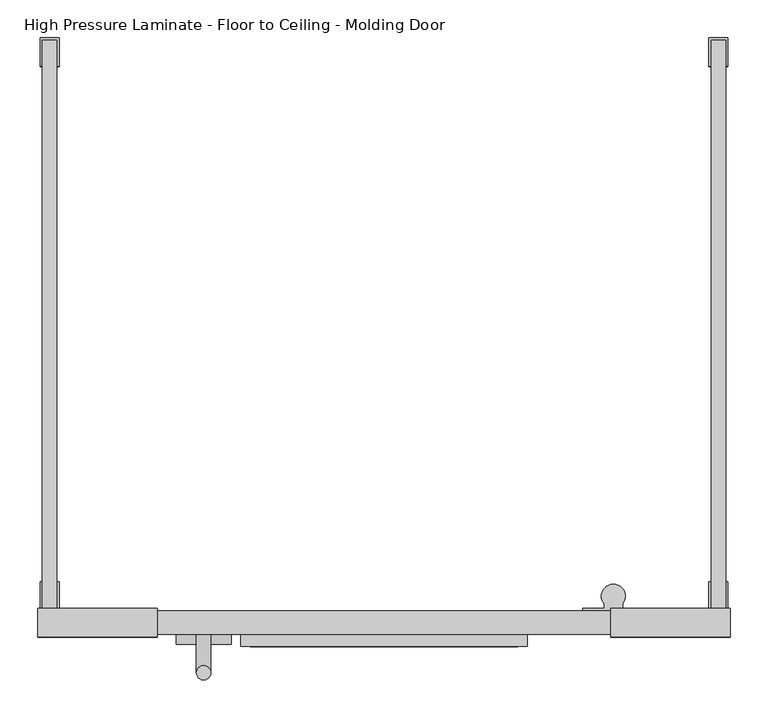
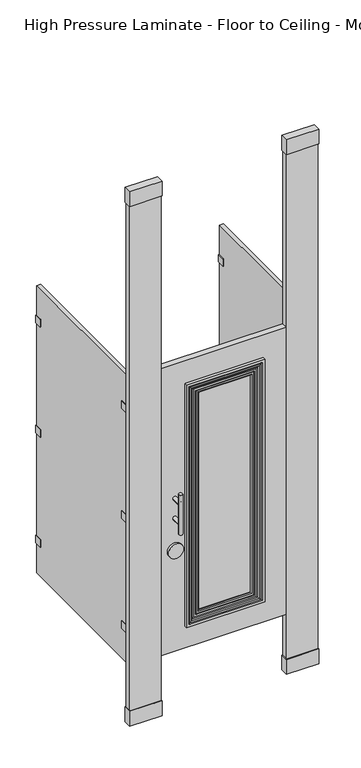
"""IFC4 building model written with IfcOpenShell, lengths in millimetres: proxy geometry, Toilet-Partition_Ironwood-Mfg_High-Pressure-Laminate : High Pressure Laminate - Floor to Ceiling - Molding Door."""

from ifc_helpers import new_model, si_unit, point, frame, frame_2d, origin, origin_with_axes, place, context, project, spatial, polyline, circle_curve, ellipse_curve, trimmed, segment, composite_curve, outline, extrude, source, transform, mapped, element, save
from ifc_brep_helpers import plane_surface, cylinder_surface, revolved_surface, advanced_brep


def high_pressure_laminate_floor_to_ceiling_molding_door_967f00b9(model_context):
    return source(origin(), model_context, "Body", "SolidModel", [
        extrude(outline(polyline([(542.925, -796.925), (542.925, -758.825), (701.675, -758.825), (701.675, -796.925), (542.925, -796.925)])), frame((0.0, 0.0, 2667.0), z_axis=(0.0, 0.0, 1.0), x_axis=(1.0, 0.0, 0.0)), (0.0, 0.0, 1.0), 76.1999999),
        extrude(outline(polyline([(701.675, -758.825), (701.675, -796.925), (542.925, -796.925), (542.925, -758.825), (701.675, -758.825)])), origin_with_axes(), (0.0, 0.0, 1.0), 76.2),
        extrude(outline(polyline([(698.5, -762.0), (698.5, -793.75), (546.1, -793.75), (546.1, -762.0), (698.5, -762.0)])), origin_with_axes(), (0.0, 0.0, 1.0), 2667.0),
        extrude(outline(polyline([(-60.325, -796.925), (-219.075, -796.925), (-219.075, -758.825), (-60.325, -758.825), (-60.325, -796.925)])), frame((0.0, 0.0, 2667.0), z_axis=(0.0, 0.0, 1.0), x_axis=(1.0, 0.0, 0.0)), (0.0, 0.0, 1.0), 76.1999999),
        extrude(outline(polyline([(-219.075, -758.825), (-60.325, -758.825), (-60.325, -796.925), (-219.075, -796.925), (-219.075, -758.825)])), origin_with_axes(), (0.0, 0.0, 1.0), 76.2),
        extrude(outline(polyline([(-215.9, -762.0), (-63.5, -762.0), (-63.5, -793.75), (-215.9, -793.75), (-215.9, -762.0)])), origin_with_axes(), (0.0, 0.0, 1.0), 2667.0),
        extrude(outline(polyline([(546.1, -793.75), (-63.5, -793.75), (-63.5, -762.0), (546.1, -762.0), (546.1, -793.75)])), frame((0.0, 0.0, 304.8), z_axis=(0.0, 0.0, 1.0), x_axis=(1.0, 0.0, 0.0)), (0.0, 0.0, 1.0), 1473.2),
        extrude(outline(composite_curve([segment(trimmed(circle_curve(frame_2d((827.0875, 1.5875)), 36.5125), [point((827.0875, -34.925))], [point((827.0875, 38.1))], False, "CARTESIAN"), True, "CONTINUOUS"), segment(trimmed(circle_curve(frame_2d((827.0875, 1.5875)), 36.5125), [point((827.0875, 38.1))], [point((827.0875, -34.925))], False, "CARTESIAN"), True, "CONTINUOUS")], self_intersect=False)), frame((0.0, -806.45, 0.0), z_axis=(0.0, 1.0, 0.0), x_axis=(0.0, 0.0, 1.0)), (0.0, 0.0, 1.0), 12.7),
        advanced_brep(
        [(-7.9375, -793.75, 1092.2), (11.1125, -793.75, 1092.2), (-7.9375, -793.75, 990.6), (11.1125, -793.75, 990.6), (11.1125, -844.55, 1092.2), (-7.9375, -844.55, 1092.2), (11.1125, -844.55, 990.6), (-7.9375, -844.55, 990.6), (-7.9375, -844.55, 1143.0), (11.1125, -844.55, 1143.0), (-7.9375, -844.55, 939.8), (11.1125, -844.55, 939.8)],
        [
            (0, 1, circle_curve(frame((1.5875, -793.75, 1092.2), z_axis=(0.0, 1.0, 0.0), x_axis=(1.0, 0.0, 0.0)), 9.525)),
            (1, 0, circle_curve(frame((1.5875, -793.75, 1092.2), z_axis=(0.0, 1.0, 0.0), x_axis=(1.0, 0.0, 0.0)), 9.525)),
            (2, 3, circle_curve(frame((1.5875, -793.75, 990.6), z_axis=(0.0, 1.0, 0.0), x_axis=(1.0, 0.0, 0.0)), 9.525)),
            (3, 2, circle_curve(frame((1.5875, -793.75, 990.6), z_axis=(0.0, 1.0, 0.0), x_axis=(1.0, 0.0, 0.0)), 9.525)),
            (1, 4),
            (4, 5, ellipse_curve(frame((1.5875, -844.55, 1092.2), z_axis=(0.0, 0.7071067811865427, 0.7071067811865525), x_axis=(0.0, -0.7071067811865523, 0.7071067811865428)), 13.4703842, 9.525)),
            (5, 0),
            (5, 4, ellipse_curve(frame((1.5875, -844.55, 1092.2), z_axis=(0.0, 0.7071067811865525, -0.7071067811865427), x_axis=(0.0, -0.7071067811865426, -0.7071067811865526)), 13.4703842, 9.525)),
            (3, 6),
            (6, 7, ellipse_curve(frame((1.5875, -844.55, 990.6), z_axis=(0.0, 0.7071067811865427, 0.7071067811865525), x_axis=(0.0, -0.7071067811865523, 0.7071067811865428)), 13.4703842, 9.525)),
            (7, 2),
            (7, 6, ellipse_curve(frame((1.5875, -844.55, 990.6), z_axis=(0.0, 0.7071067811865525, -0.7071067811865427), x_axis=(0.0, -0.7071067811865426, -0.7071067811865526)), 13.4703842, 9.525)),
            (8, 9, circle_curve(frame((1.5875, -844.55, 1143.0), z_axis=(0.0, 0.0, 1.0), x_axis=(1.0, 0.0, 0.0)), 9.525)),
            (9, 8, circle_curve(frame((1.5875, -844.55, 1143.0), z_axis=(0.0, 0.0, 1.0), x_axis=(1.0, 0.0, 0.0)), 9.525)),
            (10, 11, circle_curve(frame((1.5875, -844.55, 939.8), z_axis=(0.0, 0.0, -1.0), x_axis=(1.0, 0.0, 0.0)), 9.525)),
            (11, 10, circle_curve(frame((1.5875, -844.55, 939.8), z_axis=(0.0, 0.0, -1.0), x_axis=(1.0, 0.0, 0.0)), 9.525)),
            (8, 5),
            (5, 7),
            (7, 10),
            (11, 6),
            (6, 4),
            (4, 9),
        ],
        [
            plane_surface(frame((11.1125, -793.75, 1092.2), z_axis=(0.0, 1.0, 0.0), x_axis=(0.0, 0.0, -1.0))),
            cylinder_surface(frame((1.5875, -793.75, 1092.2), z_axis=(0.0, -1.0, 0.0), x_axis=(1.0, 0.0, 0.0)), 9.525),
            cylinder_surface(frame((1.5875, -793.75, 990.6), z_axis=(0.0, -1.0, 0.0), x_axis=(1.0, 0.0, 0.0)), 9.525),
            plane_surface(frame((11.1125, -844.55, 1143.0), z_axis=(0.0, 0.0, 1.0), x_axis=(0.0, 1.0, 0.0))),
            plane_surface(frame((11.1125, -844.55, 939.8), z_axis=(0.0, 0.0, -1.0), x_axis=(0.0, -1.0, 0.0))),
            cylinder_surface(frame((1.5875, -844.55, 939.8), z_axis=(0.0, 0.0, 1.0), x_axis=(1.0, 0.0, 0.0)), 9.525),
        ],
        [
            (0, [[1, 2]]),
            (0, [[3, 4]]),
            (1, [[-2, 5, 6, 7]]),
            (1, [[-1, -7, 8, -5]]),
            (2, [[-4, 9, 10, 11]]),
            (2, [[-3, -11, 12, -9]]),
            (3, [[13, 14]]),
            (4, [[15, 16]]),
            (5, [[-13, 17, 18, 19, -16, 20, 21, 22]]),
            (5, [[-14, -22, -8, -17]]),
            (5, [[-15, -19, -10, -20]]),
            (5, [[-18, -6, -21, -12]]),
        ],
    ),
        advanced_brep(
        [(414.5195881, -795.0073117, 1646.4195881), (415.7768998, -793.75, 1647.6768998), (415.7768998, -793.75, 435.1231002), (414.5195881, -795.0073117, 436.3804119), (382.8493103, -793.6667663, 1614.7493103), (384.1898558, -795.0073117, 1616.0898558), (384.1898558, -795.0073117, 466.7101442), (382.8493103, -793.6667663, 468.0506897), (368.3, -798.7403203, 1600.2), (368.3, -793.6667663, 1600.2), (368.3, -793.6667663, 482.6), (368.3, -798.7403203, 482.6), (371.8761431, -802.1839988, 1603.7761431), (371.8761431, -802.1839988, 479.0238569), (383.7857899, -803.6776278, 1615.6857899), (381.5195942, -802.1839988, 1613.4195942), (381.5195942, -802.1839988, 469.3804058), (383.7857899, -803.6776278, 467.1142101), (399.1420677, -804.5443603, 1631.0420677), (393.8806616, -803.6776278, 1625.7806616), (393.8806616, -803.6776278, 457.0193384), (399.1420677, -804.5443603, 451.7579323), (406.241729, -807.1284257, 1638.141729), (406.241729, -807.1284257, 444.658271), (415.3065117, -806.819399, 1647.2065117), (415.3065117, -806.819399, 435.5934883), (419.1, -809.625, 1651.0), (419.1, -809.625, 431.8), (431.8, -793.75, 1663.7), (431.8, -809.625, 1663.7), (431.8, -809.625, 419.1), (431.8, -793.75, 419.1), (66.8231002, -793.75, 435.1231002), (68.0804119, -795.0073117, 436.3804119), (98.4101442, -795.0073117, 466.7101442), (99.7506897, -793.6667663, 468.0506897), (114.3, -793.6667663, 482.6), (114.3, -798.7403203, 482.6), (110.7238569, -802.1839988, 479.0238569), (101.0804058, -802.1839988, 469.3804058), (98.8142101, -803.6776278, 467.1142101), (88.7193384, -803.6776278, 457.0193384), (83.4579323, -804.5443603, 451.7579323), (76.358271, -807.1284257, 444.658271), (67.2934883, -806.819399, 435.5934883), (63.5, -809.625, 431.8), (50.8, -809.625, 419.1), (50.8, -793.75, 419.1), (66.8231002, -793.75, 1647.6768998), (68.0804119, -795.0073117, 1646.4195881), (98.4101442, -795.0073117, 1616.0898558), (99.7506897, -793.6667663, 1614.7493103), (114.3, -793.6667663, 1600.2), (114.3, -798.7403203, 1600.2), (110.7238569, -802.1839988, 1603.7761431), (101.0804058, -802.1839988, 1613.4195942), (98.8142101, -803.6776278, 1615.6857899), (88.7193384, -803.6776278, 1625.7806616), (83.4579323, -804.5443603, 1631.0420677), (76.358271, -807.1284257, 1638.141729), (67.2934883, -806.819399, 1647.2065117), (63.5, -809.625, 1651.0), (50.8, -809.625, 1663.7), (50.8, -793.75, 1663.7)],
        [
            (0, 1),
            (1, 2),
            (2, 3),
            (3, 0),
            (4, 5),
            (5, 6),
            (6, 7),
            (7, 4),
            (8, 9),
            (9, 10),
            (10, 11),
            (11, 8),
            (12, 8, ellipse_curve(frame((371.8761431, -798.6053079, 1603.7761431), z_axis=(0.7071067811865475, 0.0, -0.7071067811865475), x_axis=(0.7071067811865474, 0.0, 0.7071067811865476)), 5.0610331, 3.5786908)),
            (11, 13, ellipse_curve(frame((371.8761431, -798.6053079, 479.0238569), z_axis=(0.7071067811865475, 0.0, 0.7071067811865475), x_axis=(-0.7071067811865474, 0.0, 0.7071067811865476)), 5.0610331, 3.5786908)),
            (13, 12),
            (14, 15, ellipse_curve(frame((383.7857899, -801.2116303, 1615.6857899), z_axis=(0.7071067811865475, 0.0, -0.7071067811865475), x_axis=(0.7071067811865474, 0.0, 0.7071067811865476)), 3.487447, 2.4659974)),
            (15, 16),
            (16, 17, ellipse_curve(frame((383.7857899, -801.2116303, 467.1142101), z_axis=(0.7071067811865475, 0.0, 0.7071067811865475), x_axis=(-0.7071067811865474, 0.0, 0.7071067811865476)), 3.487447, 2.4659974)),
            (17, 14),
            (18, 19, ellipse_curve(frame((394.2058089, -818.1066197, 1626.1058089), z_axis=(-0.7071067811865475, 0.0, 0.7071067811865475), x_axis=(-0.7071067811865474, 0.0, -0.7071067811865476)), 20.4108564, 14.432655)),
            (19, 20),
            (20, 21, ellipse_curve(frame((394.2058089, -818.1066197, 456.6941911), z_axis=(-0.7071067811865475, 0.0, -0.7071067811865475), x_axis=(0.7071067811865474, 0.0, -0.7071067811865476)), 20.4108564, 14.432655)),
            (21, 18),
            (22, 18),
            (21, 23),
            (23, 22),
            (24, 22, ellipse_curve(frame((410.3907719, -795.729024, 1642.2907719), z_axis=(0.7071067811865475, 0.0, -0.7071067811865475), x_axis=(0.7071067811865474, 0.0, 0.7071067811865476)), 17.1558104, 12.1309899)),
            (23, 25, ellipse_curve(frame((410.3907719, -795.729024, 440.5092281), z_axis=(0.7071067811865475, 0.0, 0.7071067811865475), x_axis=(-0.7071067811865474, 0.0, 0.7071067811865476)), 17.1558104, 12.1309899)),
            (25, 24),
            (26, 24, ellipse_curve(frame((419.1, -805.657588, 1651.0), z_axis=(0.7071067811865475, 0.0, -0.7071067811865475), x_axis=(0.7071067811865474, 0.0, 0.7071067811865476)), 5.6107679, 3.967412)),
            (25, 27, ellipse_curve(frame((419.1, -805.657588, 431.8), z_axis=(0.7071067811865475, 0.0, 0.7071067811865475), x_axis=(-0.7071067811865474, 0.0, 0.7071067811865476)), 5.6107679, 3.967412)),
            (27, 26),
            (28, 29),
            (29, 30),
            (30, 31),
            (31, 28),
            (2, 32),
            (32, 33),
            (33, 3),
            (6, 34),
            (34, 35),
            (35, 7),
            (10, 36),
            (36, 37),
            (37, 11),
            (37, 38, ellipse_curve(frame((110.7238569, -798.6053079, 479.0238569), z_axis=(0.7071067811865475, 0.0, -0.7071067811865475), x_axis=(0.7071067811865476, 0.0, 0.7071067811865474)), 5.0610331, 3.5786908)),
            (38, 13),
            (16, 39),
            (39, 40, ellipse_curve(frame((98.8142101, -801.2116303, 467.1142101), z_axis=(0.7071067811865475, 0.0, -0.7071067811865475), x_axis=(0.7071067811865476, 0.0, 0.7071067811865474)), 3.487447, 2.4659974)),
            (40, 17),
            (20, 41),
            (41, 42, ellipse_curve(frame((88.3941911, -818.1066197, 456.6941911), z_axis=(-0.7071067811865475, 0.0, 0.7071067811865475), x_axis=(-0.7071067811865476, 0.0, -0.7071067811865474)), 20.4108564, 14.432655)),
            (42, 21),
            (42, 43),
            (43, 23),
            (43, 44, ellipse_curve(frame((72.2092281, -795.729024, 440.5092281), z_axis=(0.7071067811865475, 0.0, -0.7071067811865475), x_axis=(0.7071067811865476, 0.0, 0.7071067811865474)), 17.1558104, 12.1309899)),
            (44, 25),
            (44, 45, ellipse_curve(frame((63.5, -805.657588, 431.8), z_axis=(0.7071067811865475, 0.0, -0.7071067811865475), x_axis=(0.7071067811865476, 0.0, 0.7071067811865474)), 5.6107679, 3.967412)),
            (45, 27),
            (30, 46),
            (46, 47),
            (47, 31),
            (32, 48),
            (48, 49),
            (49, 33),
            (34, 50),
            (50, 51),
            (51, 35),
            (36, 52),
            (52, 53),
            (53, 37),
            (53, 54, ellipse_curve(frame((110.7238569, -798.6053079, 1603.7761431), z_axis=(-0.7071067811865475, 0.0, -0.7071067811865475), x_axis=(0.7071067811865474, 0.0, -0.7071067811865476)), 5.0610331, 3.5786908)),
            (54, 38),
            (39, 55),
            (55, 56, ellipse_curve(frame((98.8142101, -801.2116303, 1615.6857899), z_axis=(-0.7071067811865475, 0.0, -0.7071067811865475), x_axis=(0.7071067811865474, 0.0, -0.7071067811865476)), 3.487447, 2.4659974)),
            (56, 40),
            (41, 57),
            (57, 58, ellipse_curve(frame((88.3941911, -818.1066197, 1626.1058089), z_axis=(0.7071067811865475, 0.0, 0.7071067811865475), x_axis=(-0.7071067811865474, 0.0, 0.7071067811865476)), 20.4108564, 14.432655)),
            (58, 42),
            (58, 59),
            (59, 43),
            (59, 60, ellipse_curve(frame((72.2092281, -795.729024, 1642.2907719), z_axis=(-0.7071067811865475, 0.0, -0.7071067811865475), x_axis=(0.7071067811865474, 0.0, -0.7071067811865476)), 17.1558104, 12.1309899)),
            (60, 44),
            (60, 61, ellipse_curve(frame((63.5, -805.657588, 1651.0), z_axis=(-0.7071067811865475, 0.0, -0.7071067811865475), x_axis=(0.7071067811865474, 0.0, -0.7071067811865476)), 5.6107679, 3.967412)),
            (61, 45),
            (46, 62),
            (62, 63),
            (63, 47),
            (63, 28),
            (1, 48),
            (0, 49),
            (5, 50),
            (4, 51),
            (9, 52),
            (8, 53),
            (12, 54),
            (15, 55),
            (14, 56),
            (19, 57),
            (18, 58),
            (22, 59),
            (24, 60),
            (26, 61),
            (29, 62),
        ],
        [
            plane_surface(frame((415.7768998, -793.75, 1647.6768998), z_axis=(-0.7071067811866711, 0.7071067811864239, 0.0), x_axis=(0.0, 0.0, -1.0))),
            plane_surface(frame((384.1898558, -795.0073117, 1616.0898558), z_axis=(0.7071067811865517, 0.7071067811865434, 0.0), x_axis=(0.0, 0.0, -1.0))),
            plane_surface(frame((368.3, -793.6667663, 1600.2), z_axis=(-1.0, 0.0, 0.0), x_axis=(0.0, 0.0, -1.0))),
            cylinder_surface(frame((371.8761431, -798.6053079, 1663.7), z_axis=(0.0, 0.0, 1.0), x_axis=(1.0, 0.0, 0.0)), 3.5786908),
            cylinder_surface(frame((383.7857899, -801.2116303, 1663.7), z_axis=(0.0, 0.0, 1.0), x_axis=(1.0, 0.0, 0.0)), 2.4659974),
            revolved_surface(polyline([(408.63846390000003, -818.1066197, 442.2615361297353), (408.63846390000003, -818.1066197, 1640.5384638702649)]), (394.2058089, -818.1066197, 1663.7), (0.0, 0.0, -1.0)),
            plane_surface(frame((399.1420677, -804.5443603, 1631.0420677), z_axis=(-0.34202014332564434, -0.9396926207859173, 0.0), x_axis=(0.0, 0.0, -1.0))),
            cylinder_surface(frame((410.3907719, -795.729024, 1663.7), z_axis=(0.0, 0.0, 1.0), x_axis=(1.0, 0.0, 0.0)), 12.1309899),
            cylinder_surface(frame((419.1, -805.657588, 1663.7), z_axis=(0.0, 0.0, 1.0), x_axis=(1.0, 0.0, 0.0)), 3.967412),
            plane_surface(frame((431.8, -809.625, 1663.7), z_axis=(1.0, 0.0, 0.0), x_axis=(0.0, 0.0, -1.0))),
            plane_surface(frame((415.7768998, -793.75, 435.1231002), z_axis=(0.0, 0.7071067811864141, 0.7071067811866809), x_axis=(-1.0, 0.0, 0.0))),
            plane_surface(frame((384.1898558, -795.0073117, 466.7101442), z_axis=(0.0, 0.7071067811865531, -0.7071067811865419), x_axis=(-1.0, 0.0, 0.0))),
            plane_surface(frame((368.3, -793.6667663, 482.6), z_axis=(0.0, 0.0, 1.0), x_axis=(-1.0, 0.0, 0.0))),
            cylinder_surface(frame((431.8, -798.6053079, 479.0238569), z_axis=(1.0, 0.0, 0.0), x_axis=(0.0, 0.0, -1.0)), 3.5786908),
            cylinder_surface(frame((431.8, -801.2116303, 467.1142101), z_axis=(1.0, 0.0, 0.0), x_axis=(0.0, 0.0, -1.0)), 2.4659974),
            revolved_surface(polyline([(73.96153612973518, -818.1066197, 442.2615361), (408.63846387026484, -818.1066197, 442.2615361)]), (431.8, -818.1066197, 456.6941911), (-1.0, 0.0, 0.0)),
            plane_surface(frame((399.1420677, -804.5443603, 451.7579323), z_axis=(0.0, -0.9396926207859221, 0.34202014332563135), x_axis=(-1.0, 0.0, 0.0))),
            cylinder_surface(frame((431.8, -795.729024, 440.5092281), z_axis=(1.0, 0.0, 0.0), x_axis=(0.0, 0.0, -1.0)), 12.1309899),
            cylinder_surface(frame((431.8, -805.657588, 431.8), z_axis=(1.0, 0.0, 0.0), x_axis=(0.0, 0.0, -1.0)), 3.967412),
            plane_surface(frame((431.8, -809.625, 419.1), z_axis=(0.0, 0.0, -1.0), x_axis=(-1.0, 0.0, 0.0))),
            plane_surface(frame((66.8231002, -793.75, 435.1231002), z_axis=(0.7071067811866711, 0.7071067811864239, 0.0), x_axis=(0.0, 0.0, 1.0))),
            plane_surface(frame((98.4101442, -795.0073117, 466.7101442), z_axis=(-0.7071067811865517, 0.7071067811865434, 0.0), x_axis=(0.0, 0.0, 1.0))),
            plane_surface(frame((114.3, -793.6667663, 482.6), z_axis=(1.0, 0.0, 0.0), x_axis=(0.0, 0.0, 1.0))),
            cylinder_surface(frame((110.7238569, -798.6053079, 419.1), z_axis=(0.0, 0.0, -1.0), x_axis=(-1.0, 0.0, 0.0)), 3.5786908),
            cylinder_surface(frame((98.8142101, -801.2116303, 419.1), z_axis=(0.0, 0.0, -1.0), x_axis=(-1.0, 0.0, 0.0)), 2.4659974),
            revolved_surface(polyline([(73.9615361, -818.1066197, 1640.5384638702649), (73.9615361, -818.1066197, 442.2615361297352)]), (88.3941911, -818.1066197, 419.1), (0.0, 0.0, 1.0)),
            plane_surface(frame((83.4579323, -804.5443603, 451.7579323), z_axis=(0.34202014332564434, -0.9396926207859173, 0.0), x_axis=(0.0, 0.0, 1.0))),
            cylinder_surface(frame((72.2092281, -795.729024, 419.1), z_axis=(0.0, 0.0, -1.0), x_axis=(-1.0, 0.0, 0.0)), 12.1309899),
            cylinder_surface(frame((63.5, -805.657588, 419.1), z_axis=(0.0, 0.0, -1.0), x_axis=(-1.0, 0.0, 0.0)), 3.967412),
            plane_surface(frame((50.8, -809.625, 419.1), z_axis=(-1.0, 0.0, 0.0), x_axis=(0.0, 0.0, 1.0))),
            plane_surface(frame((50.8, -793.75, 1663.7), z_axis=(0.0, 1.0, 0.0), x_axis=(1.0, 0.0, 0.0))),
            plane_surface(frame((66.8231002, -793.75, 1647.6768998), z_axis=(0.0, 0.7071067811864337, -0.7071067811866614), x_axis=(1.0, 0.0, 0.0))),
            plane_surface(frame((68.0804119, -795.0073117, 1646.4195881), z_axis=(0.0, 1.0, 0.0), x_axis=(1.0, 0.0, 0.0))),
            plane_surface(frame((98.4101442, -795.0073117, 1616.0898558), z_axis=(0.0, 0.7071067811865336, 0.7071067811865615), x_axis=(1.0, 0.0, 0.0))),
            plane_surface(frame((99.7506897, -793.6667663, 1614.7493103), z_axis=(0.0, 1.0, 0.0), x_axis=(1.0, 0.0, 0.0))),
            plane_surface(frame((114.3, -793.6667663, 1600.2), z_axis=(0.0, 0.0, -1.0), x_axis=(1.0, 0.0, 0.0))),
            cylinder_surface(frame((50.8, -798.6053079, 1603.7761431), z_axis=(-1.0, 0.0, 0.0), x_axis=(0.0, 0.0, 1.0)), 3.5786908),
            plane_surface(frame((110.7238569, -802.1839988, 1603.7761431), z_axis=(0.0, -1.0, 0.0), x_axis=(1.0, 0.0, 0.0))),
            cylinder_surface(frame((50.8, -801.2116303, 1615.6857899), z_axis=(-1.0, 0.0, 0.0), x_axis=(0.0, 0.0, 1.0)), 2.4659974),
            plane_surface(frame((98.8142101, -803.6776278, 1615.6857899), z_axis=(0.0, -1.0, 0.0), x_axis=(1.0, 0.0, 0.0))),
            revolved_surface(polyline([(408.63846387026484, -818.1066197, 1640.5384639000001), (73.96153612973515, -818.1066197, 1640.5384639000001)]), (50.8, -818.1066197, 1626.1058089), (1.0, 0.0, 0.0)),
            plane_surface(frame((83.4579323, -804.5443603, 1631.0420677), z_axis=(0.0, -0.9396926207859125, -0.34202014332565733), x_axis=(1.0, 0.0, 0.0))),
            cylinder_surface(frame((50.8, -795.729024, 1642.2907719), z_axis=(-1.0, 0.0, 0.0), x_axis=(0.0, 0.0, 1.0)), 12.1309899),
            cylinder_surface(frame((50.8, -805.657588, 1651.0), z_axis=(-1.0, 0.0, 0.0), x_axis=(0.0, 0.0, 1.0)), 3.967412),
            plane_surface(frame((63.5, -809.625, 1651.0), z_axis=(0.0, -1.0, 0.0), x_axis=(1.0, 0.0, 0.0))),
            plane_surface(frame((50.8, -809.625, 1663.7), z_axis=(0.0, 0.0, 1.0), x_axis=(1.0, 0.0, 0.0))),
        ],
        [
            (0, [[1, 2, 3, 4]]),
            (1, [[5, 6, 7, 8]]),
            (2, [[9, 10, 11, 12]]),
            (3, [[13, -12, 14, 15]]),
            (4, [[16, 17, 18, 19]]),
            (5, [[20, 21, 22, 23]]),
            (6, [[24, -23, 25, 26]]),
            (7, [[27, -26, 28, 29]]),
            (8, [[30, -29, 31, 32]]),
            (9, [[33, 34, 35, 36]]),
            (10, [[-3, 37, 38, 39]]),
            (11, [[-7, 40, 41, 42]]),
            (12, [[-11, 43, 44, 45]]),
            (13, [[-14, -45, 46, 47]]),
            (14, [[-18, 48, 49, 50]]),
            (15, [[-22, 51, 52, 53]]),
            (16, [[-25, -53, 54, 55]]),
            (17, [[-28, -55, 56, 57]]),
            (18, [[-31, -57, 58, 59]]),
            (19, [[-35, 60, 61, 62]]),
            (20, [[-38, 63, 64, 65]]),
            (21, [[-41, 66, 67, 68]]),
            (22, [[-44, 69, 70, 71]]),
            (23, [[-46, -71, 72, 73]]),
            (24, [[-49, 74, 75, 76]]),
            (25, [[-52, 77, 78, 79]]),
            (26, [[-54, -79, 80, 81]]),
            (27, [[-56, -81, 82, 83]]),
            (28, [[-58, -83, 84, 85]]),
            (29, [[-61, 86, 87, 88]]),
            (30, [[-62, -88, 89, -36], [90, -63, -37, -2]]),
            (31, [[-64, -90, -1, 91]]),
            (32, [[-39, -65, -91, -4], [92, -66, -40, -6]]),
            (33, [[-67, -92, -5, 93]]),
            (34, [[-42, -68, -93, -8], [94, -69, -43, -10]]),
            (35, [[-70, -94, -9, 95]]),
            (36, [[-72, -95, -13, 96]]),
            (37, [[97, -74, -48, -17], [-47, -73, -96, -15]]),
            (38, [[-75, -97, -16, 98]]),
            (39, [[99, -77, -51, -21], [-50, -76, -98, -19]]),
            (40, [[-78, -99, -20, 100]]),
            (41, [[-80, -100, -24, 101]]),
            (42, [[-82, -101, -27, 102]]),
            (43, [[-84, -102, -30, 103]]),
            (44, [[104, -86, -60, -34], [-59, -85, -103, -32]]),
            (45, [[-87, -104, -33, -89]]),
        ],
    ),
        extrude(outline(composite_curve([segment(polyline([(581.3737081, -762.0), (505.1737081, -762.0), (505.1737081, -758.825), (533.7487081, -758.825), (533.7487081, -752.9581331)]), True, "CONTINUOUS"), segment(trimmed(circle_curve(frame_2d((546.1, -742.8902139)), 15.9347861), [point((533.7487081, -752.9581331))], [point((558.4512919, -752.9581331))], False, "CARTESIAN"), True, "CONTINUOUS"), segment(polyline([(558.4512919, -752.9581331), (558.4512919, -758.825), (581.3737081, -758.825), (581.3737081, -762.0)]), True, "CONTINUOUS")], self_intersect=False)), frame((0.0, 0.0, 1574.8), z_axis=(0.0, 0.0, 1.0), x_axis=(1.0, 0.0, 0.0)), (0.0, 0.0, 1.0), 63.5),
        extrude(outline(composite_curve([segment(polyline([(581.3737081, -762.0), (505.1737081, -762.0), (505.1737081, -758.825), (533.7487081, -758.825), (533.7487081, -752.9581331)]), True, "CONTINUOUS"), segment(trimmed(circle_curve(frame_2d((546.1, -742.8902139)), 15.9347861), [point((533.7487081, -752.9581331))], [point((558.4512919, -752.9581331))], False, "CARTESIAN"), True, "CONTINUOUS"), segment(polyline([(558.4512919, -752.9581331), (558.4512919, -758.825), (581.3737081, -758.825), (581.3737081, -762.0)]), True, "CONTINUOUS")], self_intersect=False)), frame((0.0, 0.0, 1009.6500001), z_axis=(0.0, 0.0, 1.0), x_axis=(1.0, 0.0, 0.0)), (0.0, 0.0, 1.0), 63.5),
        extrude(outline(composite_curve([segment(polyline([(581.3737081, -762.0), (505.1737081, -762.0), (505.1737081, -758.825), (533.7487081, -758.825), (533.7487081, -752.9581331)]), True, "CONTINUOUS"), segment(trimmed(circle_curve(frame_2d((546.1, -742.8902139)), 15.9347861), [point((533.7487081, -752.9581331))], [point((558.4512919, -752.9581331))], False, "CARTESIAN"), True, "CONTINUOUS"), segment(polyline([(558.4512919, -752.9581331), (558.4512919, -758.825), (581.3737081, -758.825), (581.3737081, -762.0)]), True, "CONTINUOUS")], self_intersect=False)), frame((0.0, 0.0, 444.5), z_axis=(0.0, 0.0, 1.0), x_axis=(1.0, 0.0, 0.0)), (0.0, 0.0, 1.0), 63.5),
        extrude(outline(polyline([(676.148, -723.9), (676.148, -758.825), (695.198, -758.825), (695.198, -723.9), (698.373, -723.9), (698.373, -762.0), (672.973, -762.0), (672.973, -723.9), (676.148, -723.9)])), frame((0.0, 0.0, 1587.8188137), z_axis=(0.0, 0.0, 1.0), x_axis=(1.0, 0.0, 0.0)), (0.0, 0.0, 1.0), 38.1),
        extrude(outline(polyline([(676.148, -38.1), (672.973, -38.1), (672.973, 0.0), (698.373, 0.0), (698.373, -38.1), (695.198, -38.1), (695.198, -3.175), (676.148, -3.175), (676.148, -38.1)])), frame((0.0, 0.0, 1587.8188137), z_axis=(0.0, 0.0, 1.0), x_axis=(1.0, 0.0, 0.0)), (0.0, 0.0, 1.0), 38.1),
        extrude(outline(polyline([(676.148, -723.9), (676.148, -758.825), (695.198, -758.825), (695.198, -723.9), (698.373, -723.9), (698.373, -762.0), (672.973, -762.0), (672.973, -723.9), (676.148, -723.9)])), frame((0.0, 0.0, 1022.35), z_axis=(0.0, 0.0, 1.0), x_axis=(1.0, 0.0, 0.0)), (0.0, 0.0, 1.0), 38.1),
        extrude(outline(polyline([(676.148, -38.1), (672.973, -38.1), (672.973, 0.0), (698.373, 0.0), (698.373, -38.1), (695.198, -38.1), (695.198, -3.175), (676.148, -3.175), (676.148, -38.1)])), frame((0.0, 0.0, 1022.35), z_axis=(0.0, 0.0, 1.0), x_axis=(1.0, 0.0, 0.0)), (0.0, 0.0, 1.0), 38.1),
        extrude(outline(polyline([(676.148, -723.9), (676.148, -758.825), (695.198, -758.825), (695.198, -723.9), (698.373, -723.9), (698.373, -762.0), (672.973, -762.0), (672.973, -723.9), (676.148, -723.9)])), frame((0.0, 0.0, 457.2), z_axis=(0.0, 0.0, 1.0), x_axis=(1.0, 0.0, 0.0)), (0.0, 0.0, 1.0), 38.1),
        extrude(outline(polyline([(676.148, -38.1), (672.973, -38.1), (672.973, 0.0), (698.373, 0.0), (698.373, -38.1), (695.198, -38.1), (695.198, -3.175), (676.148, -3.175), (676.148, -38.1)])), frame((0.0, 0.0, 457.2), z_axis=(0.0, 0.0, 1.0), x_axis=(1.0, 0.0, 0.0)), (0.0, 0.0, 1.0), 38.1),
        extrude(outline(polyline([(-212.598, -723.9), (-212.598, -758.825), (-193.548, -758.825), (-193.548, -723.9), (-190.373, -723.9), (-190.373, -762.0), (-215.773, -762.0), (-215.773, -723.9), (-212.598, -723.9)])), frame((0.0, 0.0, 1587.8188137), z_axis=(0.0, 0.0, 1.0), x_axis=(1.0, 0.0, 0.0)), (0.0, 0.0, 1.0), 38.1),
        extrude(outline(polyline([(-212.598, -38.1), (-215.773, -38.1), (-215.773, 0.0), (-190.373, 0.0), (-190.373, -38.1), (-193.548, -38.1), (-193.548, -3.175), (-212.598, -3.175), (-212.598, -38.1)])), frame((0.0, 0.0, 1587.8188137), z_axis=(0.0, 0.0, 1.0), x_axis=(1.0, 0.0, 0.0)), (0.0, 0.0, 1.0), 38.1),
        extrude(outline(polyline([(-212.598, -723.9), (-212.598, -758.825), (-193.548, -758.825), (-193.548, -723.9), (-190.373, -723.9), (-190.373, -762.0), (-215.773, -762.0), (-215.773, -723.9), (-212.598, -723.9)])), frame((0.0, 0.0, 1022.35), z_axis=(0.0, 0.0, 1.0), x_axis=(1.0, 0.0, 0.0)), (0.0, 0.0, 1.0), 38.1),
        extrude(outline(polyline([(-212.598, -38.1), (-215.773, -38.1), (-215.773, 0.0), (-190.373, 0.0), (-190.373, -38.1), (-193.548, -38.1), (-193.548, -3.175), (-212.598, -3.175), (-212.598, -38.1)])), frame((0.0, 0.0, 1022.35), z_axis=(0.0, 0.0, 1.0), x_axis=(1.0, 0.0, 0.0)), (0.0, 0.0, 1.0), 38.1),
        extrude(outline(polyline([(-212.598, -723.9), (-212.598, -758.825), (-193.548, -758.825), (-193.548, -723.9), (-190.373, -723.9), (-190.373, -762.0), (-215.773, -762.0), (-215.773, -723.9), (-212.598, -723.9)])), frame((0.0, 0.0, 457.2), z_axis=(0.0, 0.0, 1.0), x_axis=(1.0, 0.0, 0.0)), (0.0, 0.0, 1.0), 38.1),
        extrude(outline(polyline([(-212.598, -38.1), (-215.773, -38.1), (-215.773, 0.0), (-190.373, 0.0), (-190.373, -38.1), (-193.548, -38.1), (-193.548, -3.175), (-212.598, -3.175), (-212.598, -38.1)])), frame((0.0, 0.0, 457.2), z_axis=(0.0, 0.0, 1.0), x_axis=(1.0, 0.0, 0.0)), (0.0, 0.0, 1.0), 38.1),
        extrude(outline(polyline([(-193.548, -3.175), (-193.548, -758.825), (-212.598, -758.825), (-212.598, -3.175), (-193.548, -3.175)])), frame((0.0, 0.0, 304.8), z_axis=(0.0, 0.0, 1.0), x_axis=(1.0, 0.0, 0.0)), (0.0, 0.0, 1.0), 1473.2),
        extrude(outline(polyline([(695.198, -3.175), (695.198, -758.825), (676.148, -758.825), (676.148, -3.175), (695.198, -3.175)])), frame((0.0, 0.0, 304.8), z_axis=(0.0, 0.0, 1.0), x_axis=(1.0, 0.0, 0.0)), (0.0, 0.0, 1.0), 1473.2),
    ])


if __name__ == "__main__":
    model = new_model("IFC4")
    model_context = context("Model", 3, world=origin())
    ifc_project = project(units=[si_unit("LENGTHUNIT", "METRE", prefix="MILLI")], contexts=[model_context])
    site = spatial("IfcSite", under=ifc_project)
    building = spatial("IfcBuilding", under=site)
    placement = place(None, origin())
    high_pressure_laminate_floor_to_ceiling_molding_door_shape = high_pressure_laminate_floor_to_ceiling_molding_door_967f00b9(model_context)
    element("IfcBuildingElementProxy", 1, Name="Toilet-Partition_Ironwood-Mfg_High-Pressure-Laminate : High Pressure Laminate - Floor to Ceiling - Molding Door", ObjectType="Toilet-Partition_Ironwood-Mfg_High-Pressure-Laminate : High Pressure Laminate - Floor to Ceiling - Molding Door", at=placement, inside=building, context=model_context, shape_type="MappedRepresentation", body=[
        mapped(high_pressure_laminate_floor_to_ceiling_molding_door_shape, transform((0.0, 0.0, 0.0), x_axis=(1.0, 0.0, 0.0), y_axis=(0.0, 1.0, 0.0), z_axis=(0.0, 0.0, 1.0))),
    ])
    save(model, "model.ifc")
